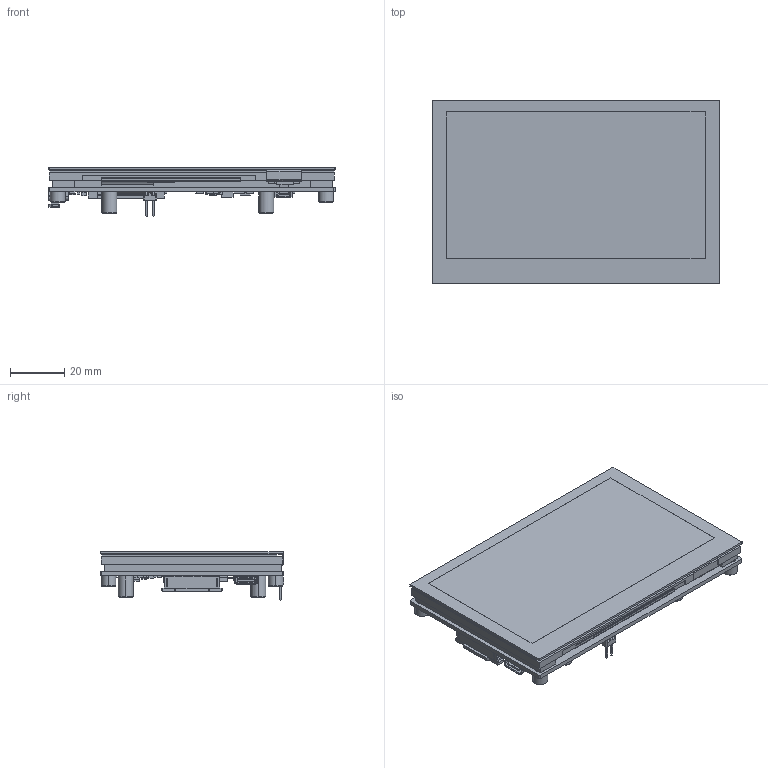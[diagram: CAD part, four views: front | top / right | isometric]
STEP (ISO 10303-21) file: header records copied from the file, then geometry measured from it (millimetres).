
FILE_DESCRIPTION((''),'2;1');
FILE_NAME('4_3INCH-DSI-LCD-20240612_ASM','2024-12-09T15:44:01',('ag'),(''),'CREO PARAMETRIC BY PTC INC, 2022073','CREO PARAMETRIC BY PTC INC, 2022073','');
FILE_SCHEMA(('AUTOMOTIVE_DESIGN { 1 0 10303 214 1 1 1 1 }'));
Products named in the file (13): 43H-800480-IPS; 4_3H-800480-IPS-TP; 4_3H-800480-LCD-TP_ASM; 4_3INCH_DSI_LCD_V2_2-PCBA; SMTSO-M2_5-4ET; TYPE-C_16PIN-9X3X7_3; TP-FPC_CONNECTOR; 4_3INCH-DSI-LCD-PCBA-B_ASM; EVA; PIN-2_54MM_1X2PIN-SMT; DISPLAY_CAM; STUDS-M2_5XH4; 4_3INCH-DSI-LCD-20240612_ASM
Assembly tree (18 placements, depth 3):
  4_3INCH-DSI-LCD-20240612_ASM
    4_3H-800480-LCD-TP_ASM
      43H-800480-IPS
      4_3H-800480-IPS-TP
    4_3INCH-DSI-LCD-PCBA-B_ASM
      4_3INCH_DSI_LCD_V2_2-PCBA
      SMTSO-M2_5-4ET  x4
      TYPE-C_16PIN-9X3X7_3
      TP-FPC_CONNECTOR
    EVA
    PIN-2_54MM_1X2PIN-SMT
    DISPLAY_CAM
    STUDS-M2_5XH4  x4
Bounding box: 106.1 x 68 x 18.1 mm (x, y, z)
Volume: 49393.3 mm3; surface area: 69396.2 mm2
Topology: 114 solids, 189 shells, 6004 faces, 15649 edges, 10344 vertices
Faces by surface type: plane 4733, cylinder 661, extrusion 481, bspline 64, cone 49, sphere 16
Entity records: 232232 total; most frequent: CARTESIAN_POINT 47998, ORIENTED_EDGE 29952, DIRECTION 25944, EDGE_CURVE 14976, VECTOR 13236, LINE 12755, VERTEX_POINT 9930, PRESENTATION_STYLE_ASSIGNMENT 7932
